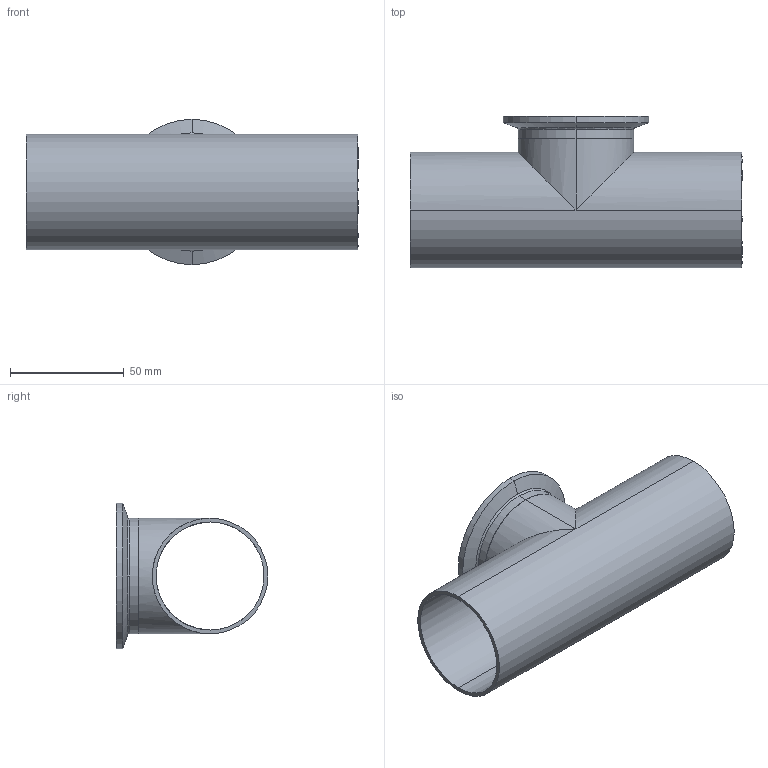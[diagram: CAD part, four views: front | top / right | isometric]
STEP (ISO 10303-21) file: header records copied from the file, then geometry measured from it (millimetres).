
FILE_DESCRIPTION (( 'STEP AP214' ), '1' );
FILE_NAME ('TE7WWCS6L2.0-...STEP', '2016-05-24T12:11:53', ( 'eran' ), ( '' ), 'SwSTEP 2.0', 'SolidWorks 2016', '' );
FILE_SCHEMA (( 'AUTOMOTIVE_DESIGN' ));
Length unit declared in the file: millimetre
Products named in the file (1): TE7WWCS6L2.0-..
Bounding box: 146 x 66.7 x 63.91 mm (x, y, z)
Volume: 44463.5 mm3; surface area: 51722.1 mm2
Topology: 2 solids, 2 shells, 38 faces, 92 edges, 58 vertices
Faces by surface type: cylinder 16, bspline 10, plane 6, cone 6
Entity records: 3144 total; most frequent: CARTESIAN_POINT 2232, ORIENTED_EDGE 184, DIRECTION 180, EDGE_CURVE 92, AXIS2_PLACEMENT_3D 78, VERTEX_POINT 58, CIRCLE 49, EDGE_LOOP 44
